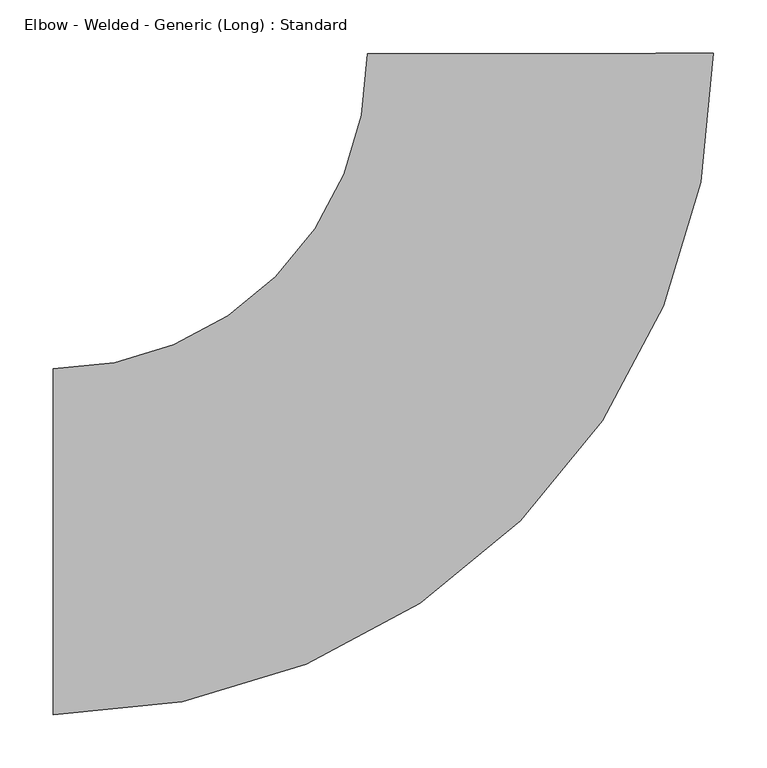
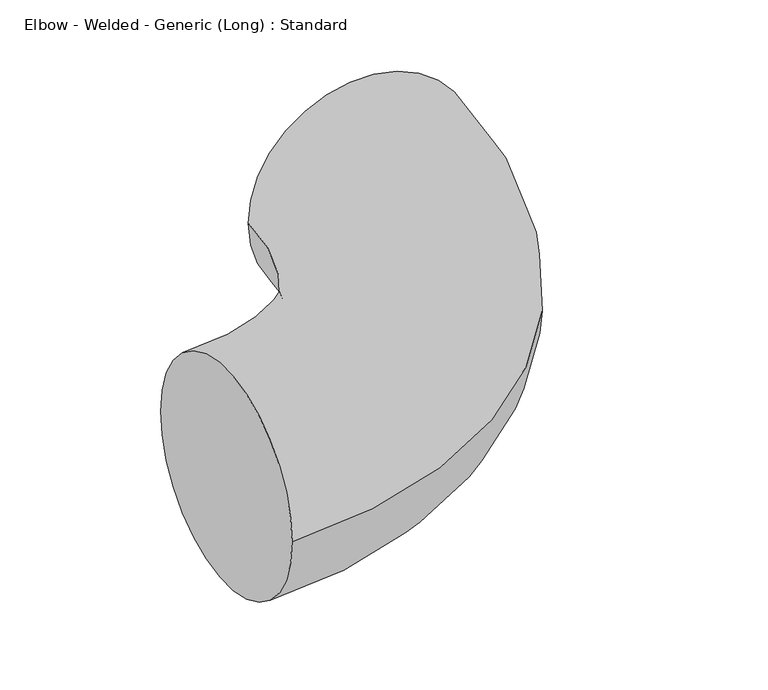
"""IFC4 building model written with IfcOpenShell, lengths in millimetres: pipe fitting geometry, Elbow - Welded - Generic (Long) : Standard."""

from ifc_helpers import new_model, si_unit, point, frame, origin, place, context, project, spatial, circle_curve, ellipse_curve, trimmed, source, transform, mapped, element, save
from ifc_brep_helpers import plane_surface, revolved_surface, advanced_brep


def elbow_welded_generic_long_standard_8407b09d(model_context):
    return source(origin(), model_context, "Body", "AdvancedBrep", [
        advanced_brep(
        [(-457.2, -161.925, 0.0), (-457.2, 161.925, 0.0), (161.2927306, 457.423437, 0.0), (-162.5569599, 456.9756891, 0.0)],
        [
            (0, 1, circle_curve(frame((-457.2, 0.0, 0.0), z_axis=(-1.0, 0.0, 0.0), x_axis=(0.0, 1.0, 0.0)), 161.925)),
            (1, 0, circle_curve(frame((-457.2, 0.0, 0.0), z_axis=(-1.0, 0.0, 0.0), x_axis=(0.0, 1.0, 0.0)), 161.925)),
            (2, 3, circle_curve(frame((-0.6321146, 457.199563, 0.0), z_axis=(-0.0013825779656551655, 0.9999990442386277, 0.0), x_axis=(-0.9999990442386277, -0.0013825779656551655, 0.0)), 161.925)),
            (3, 2, circle_curve(frame((-0.6321146, 457.199563, 0.0), z_axis=(-0.0013825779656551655, 0.9999990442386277, 0.0), x_axis=(-0.9999990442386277, -0.0013825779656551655, 0.0)), 161.925)),
            (3, 1, circle_curve(frame((-457.2, 456.5683217, 0.0), z_axis=(0.0, 0.0, -1.0), x_axis=(0.0, -1.0, 0.0)), 294.6433217)),
            (0, 2, circle_curve(frame((-457.2, 456.5683217, 0.0), z_axis=(0.0, 0.0, 1.0), x_axis=(0.0, -1.0, 0.0)), 618.4933217)),
        ],
        [
            plane_surface(frame((-457.2, 0.0, 0.0), z_axis=(-1.0, 0.0, 0.0), x_axis=(0.0, 0.0, 1.0))),
            plane_surface(frame((-0.6321146, 457.199563, 0.0), z_axis=(-0.0013825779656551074, 0.9999990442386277, 0.0), x_axis=(0.0, 0.0, 1.0))),
            revolved_surface(trimmed(ellipse_curve(frame((-457.2, 0.0, 0.0), z_axis=(-1.0, 0.0, 0.0), x_axis=(0.0, 1.0, 0.0)), 161.925, 161.925), [point((-457.2, -161.925, 0.0))], [point((-457.2, 161.925, 0.0))], True, "CARTESIAN"), (-457.2, 456.5683217, 0.0), (0.0, 0.0, 1.0)),
            revolved_surface(trimmed(ellipse_curve(frame((-457.2, 0.0, 0.0), z_axis=(-1.0, 0.0, 0.0), x_axis=(0.0, 1.0, 0.0)), 161.925, 161.925), [point((-457.2, 161.925, 0.0))], [point((-457.2, -161.925, 0.0))], True, "CARTESIAN"), (-457.2, 456.5683217, 0.0), (0.0, 0.0, 1.0)),
        ],
        [
            (0, [[1, 2]]),
            (1, [[3, 4]]),
            (2, [[5, -1, 6, -4]]),
            (3, [[-6, -2, -5, -3]]),
        ],
    ),
    ])


if __name__ == "__main__":
    model = new_model("IFC4")
    model_context = context("Model", 3, world=origin())
    ifc_project = project(units=[si_unit("LENGTHUNIT", "METRE", prefix="MILLI")], contexts=[model_context])
    site = spatial("IfcSite", under=ifc_project)
    building = spatial("IfcBuilding", under=site)
    placement = place(None, origin())
    elbow_welded_generic_long_standard_shape = elbow_welded_generic_long_standard_8407b09d(model_context)
    element("IfcPipeFitting", 1, ObjectType="Elbow - Welded - Generic (Long) : Standard", at=placement, inside=building, context=model_context, shape_type="MappedRepresentation", body=[
        mapped(elbow_welded_generic_long_standard_shape, transform((0.0, 0.0, 0.0), x_axis=(1.0, 0.0, 0.0), y_axis=(0.0, 1.0, 0.0), z_axis=(0.0, 0.0, 1.0))),
    ])
    save(model, "model.ifc")
